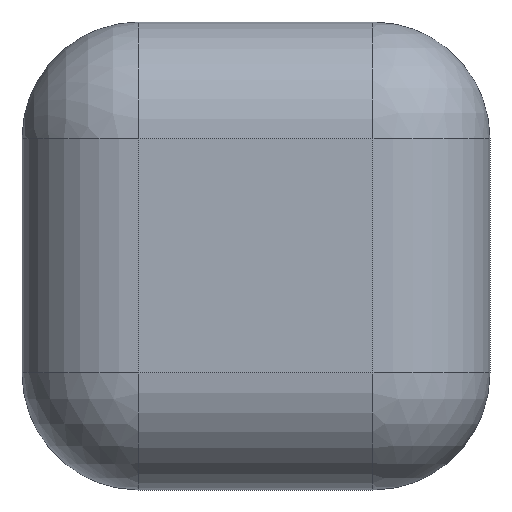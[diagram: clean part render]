
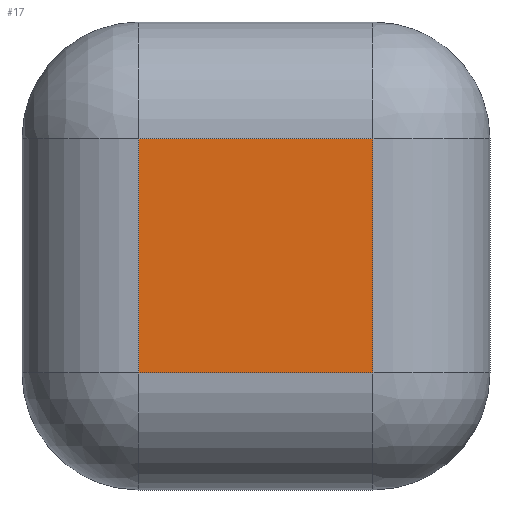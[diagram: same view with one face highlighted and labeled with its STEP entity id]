
A CAD part, left-side view. The second image highlights one B-rep face of the part: STEP entity #17.
In plain terms, the highlighted planar face has unit normal (-1, 0, 0).
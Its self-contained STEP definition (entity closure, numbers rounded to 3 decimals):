
#17 = ADVANCED_FACE('',(#18),#32,.F.);
#18 = FACE_BOUND('',#19,.F.);
#19 = EDGE_LOOP('',(#20,#55,#83,#111));
#20 = ORIENTED_EDGE('',*,*,#21,.F.);
#21 = EDGE_CURVE('',#22,#24,#26,.T.);
#22 = VERTEX_POINT('',#23);
#23 = CARTESIAN_POINT('',(-13.,-6.,-6.));
#24 = VERTEX_POINT('',#25);
#25 = CARTESIAN_POINT('',(-13.,-6.,6.));
#26 = SURFACE_CURVE('',#27,(#31,#43),.PCURVE_S1.);
#27 = LINE('',#28,#29);
#28 = CARTESIAN_POINT('',(-13.,-6.,-12.));
#29 = VECTOR('',#30,1.);
#30 = DIRECTION('',(0.,0.,1.));
#31 = PCURVE('',#32,#37);
#32 = PLANE('',#33);
#33 = AXIS2_PLACEMENT_3D('',#34,#35,#36);
#34 = CARTESIAN_POINT('',(-13.,-12.,-12.));
#35 = DIRECTION('',(1.,0.,-0.));
#36 = DIRECTION('',(0.,0.,1.));
#37 = DEFINITIONAL_REPRESENTATION('',(#38),#42);
#38 = LINE('',#39,#40);
#39 = CARTESIAN_POINT('',(0.,-6.));
#40 = VECTOR('',#41,1.);
#41 = DIRECTION('',(1.,0.));
#42 = ( GEOMETRIC_REPRESENTATION_CONTEXT(2) 
PARAMETRIC_REPRESENTATION_CONTEXT() REPRESENTATION_CONTEXT('2D SPACE',''
  ) );
#43 = PCURVE('',#44,#49);
#44 = CYLINDRICAL_SURFACE('',#45,6.);
#45 = AXIS2_PLACEMENT_3D('',#46,#47,#48);
#46 = CARTESIAN_POINT('',(-7.,-6.,-12.));
#47 = DIRECTION('',(0.,0.,1.));
#48 = DIRECTION('',(-1.,-0.,0.));
#49 = DEFINITIONAL_REPRESENTATION('',(#50),#54);
#50 = LINE('',#51,#52);
#51 = CARTESIAN_POINT('',(0.,0.));
#52 = VECTOR('',#53,1.);
#53 = DIRECTION('',(0.,1.));
#54 = ( GEOMETRIC_REPRESENTATION_CONTEXT(2) 
PARAMETRIC_REPRESENTATION_CONTEXT() REPRESENTATION_CONTEXT('2D SPACE',''
  ) );
#55 = ORIENTED_EDGE('',*,*,#56,.T.);
#56 = EDGE_CURVE('',#22,#57,#59,.T.);
#57 = VERTEX_POINT('',#58);
#58 = CARTESIAN_POINT('',(-13.,6.,-6.));
#59 = SURFACE_CURVE('',#60,(#64,#71),.PCURVE_S1.);
#60 = LINE('',#61,#62);
#61 = CARTESIAN_POINT('',(-13.,-12.,-6.));
#62 = VECTOR('',#63,1.);
#63 = DIRECTION('',(-0.,1.,0.));
#64 = PCURVE('',#32,#65);
#65 = DEFINITIONAL_REPRESENTATION('',(#66),#70);
#66 = LINE('',#67,#68);
#67 = CARTESIAN_POINT('',(6.,0.));
#68 = VECTOR('',#69,1.);
#69 = DIRECTION('',(0.,-1.));
#70 = ( GEOMETRIC_REPRESENTATION_CONTEXT(2) 
PARAMETRIC_REPRESENTATION_CONTEXT() REPRESENTATION_CONTEXT('2D SPACE',''
  ) );
#71 = PCURVE('',#72,#77);
#72 = CYLINDRICAL_SURFACE('',#73,6.);
#73 = AXIS2_PLACEMENT_3D('',#74,#75,#76);
#74 = CARTESIAN_POINT('',(-7.,-12.,-6.));
#75 = DIRECTION('',(-0.,1.,0.));
#76 = DIRECTION('',(-1.,-0.,0.));
#77 = DEFINITIONAL_REPRESENTATION('',(#78),#82);
#78 = LINE('',#79,#80);
#79 = CARTESIAN_POINT('',(-0.,0.));
#80 = VECTOR('',#81,1.);
#81 = DIRECTION('',(-0.,1.));
#82 = ( GEOMETRIC_REPRESENTATION_CONTEXT(2) 
PARAMETRIC_REPRESENTATION_CONTEXT() REPRESENTATION_CONTEXT('2D SPACE',''
  ) );
#83 = ORIENTED_EDGE('',*,*,#84,.T.);
#84 = EDGE_CURVE('',#57,#85,#87,.T.);
#85 = VERTEX_POINT('',#86);
#86 = CARTESIAN_POINT('',(-13.,6.,6.));
#87 = SURFACE_CURVE('',#88,(#92,#99),.PCURVE_S1.);
#88 = LINE('',#89,#90);
#89 = CARTESIAN_POINT('',(-13.,6.,-12.));
#90 = VECTOR('',#91,1.);
#91 = DIRECTION('',(0.,0.,1.));
#92 = PCURVE('',#32,#93);
#93 = DEFINITIONAL_REPRESENTATION('',(#94),#98);
#94 = LINE('',#95,#96);
#95 = CARTESIAN_POINT('',(0.,-18.));
#96 = VECTOR('',#97,1.);
#97 = DIRECTION('',(1.,0.));
#98 = ( GEOMETRIC_REPRESENTATION_CONTEXT(2) 
PARAMETRIC_REPRESENTATION_CONTEXT() REPRESENTATION_CONTEXT('2D SPACE',''
  ) );
#99 = PCURVE('',#100,#105);
#100 = CYLINDRICAL_SURFACE('',#101,6.);
#101 = AXIS2_PLACEMENT_3D('',#102,#103,#104);
#102 = CARTESIAN_POINT('',(-7.,6.,-12.));
#103 = DIRECTION('',(0.,0.,1.));
#104 = DIRECTION('',(-1.,-0.,0.));
#105 = DEFINITIONAL_REPRESENTATION('',(#106),#110);
#106 = LINE('',#107,#108);
#107 = CARTESIAN_POINT('',(-0.,0.));
#108 = VECTOR('',#109,1.);
#109 = DIRECTION('',(-0.,1.));
#110 = ( GEOMETRIC_REPRESENTATION_CONTEXT(2) 
PARAMETRIC_REPRESENTATION_CONTEXT() REPRESENTATION_CONTEXT('2D SPACE',''
  ) );
#111 = ORIENTED_EDGE('',*,*,#112,.F.);
#112 = EDGE_CURVE('',#24,#85,#113,.T.);
#113 = SURFACE_CURVE('',#114,(#118,#125),.PCURVE_S1.);
#114 = LINE('',#115,#116);
#115 = CARTESIAN_POINT('',(-13.,-12.,6.));
#116 = VECTOR('',#117,1.);
#117 = DIRECTION('',(-0.,1.,0.));
#118 = PCURVE('',#32,#119);
#119 = DEFINITIONAL_REPRESENTATION('',(#120),#124);
#120 = LINE('',#121,#122);
#121 = CARTESIAN_POINT('',(18.,0.));
#122 = VECTOR('',#123,1.);
#123 = DIRECTION('',(0.,-1.));
#124 = ( GEOMETRIC_REPRESENTATION_CONTEXT(2) 
PARAMETRIC_REPRESENTATION_CONTEXT() REPRESENTATION_CONTEXT('2D SPACE',''
  ) );
#125 = PCURVE('',#126,#131);
#126 = CYLINDRICAL_SURFACE('',#127,6.);
#127 = AXIS2_PLACEMENT_3D('',#128,#129,#130);
#128 = CARTESIAN_POINT('',(-7.,-12.,6.));
#129 = DIRECTION('',(-0.,1.,0.));
#130 = DIRECTION('',(-1.,-0.,0.));
#131 = DEFINITIONAL_REPRESENTATION('',(#132),#136);
#132 = LINE('',#133,#134);
#133 = CARTESIAN_POINT('',(0.,0.));
#134 = VECTOR('',#135,1.);
#135 = DIRECTION('',(0.,1.));
#136 = ( GEOMETRIC_REPRESENTATION_CONTEXT(2) 
PARAMETRIC_REPRESENTATION_CONTEXT() REPRESENTATION_CONTEXT('2D SPACE',''
  ) );
